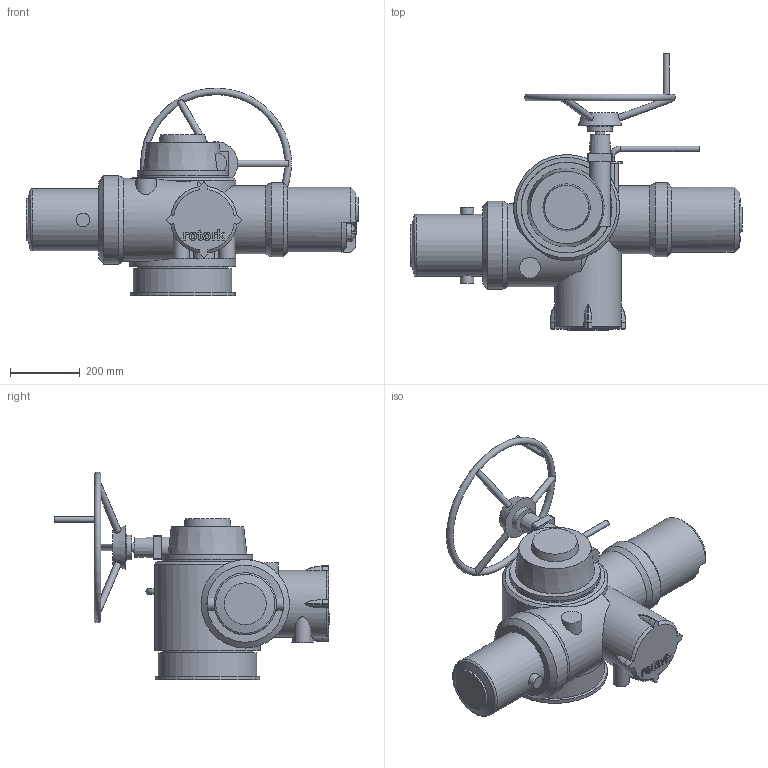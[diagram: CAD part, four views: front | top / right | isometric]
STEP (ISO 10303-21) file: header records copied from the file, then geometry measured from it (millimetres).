
FILE_DESCRIPTION( ( 'Unknown' ), '1' );
FILE_NAME( 'S:/System/Symlibrary/Actuators-Web/IQ/IQ40_SHW-1.stp', 'May 2003', ( 'Paul Exton' ), ( 'Rotork Controls Ltd' ), 'XStep 1.0', 'Solid Edge V12 (12.00.05.02)', ' ' );
FILE_SCHEMA( ( 'automotive_design' ) );
Length unit declared in the file: millimetre
Products named in the file (1): 1
Bounding box: 949.7 x 789.44 x 594.55 mm (x, y, z)
Volume: 57050611 mm3; surface area: 1402127.9 mm2
Topology: 1 solids, 1 shells, 293 faces, 729 edges, 477 vertices
Faces by surface type: plane 139, cylinder 82, extrusion 33, cone 21, torus 15, bspline 2, sphere 1
Full cylindrical faces by diameter (mm): 14 x8, 16 x2, 17.5 x1, 19.04 x3, 27 x1, 38 x2, 50.5 x2, 59 x1, 60 x1, 61 x2, 70 x1, 120 x1, 148 x1, 178 x1, 187 x1, 191 x1, 194 x1, 212 x1, 237 x1, 253 x1, 259 x1, 260 x2, 282 x1, 300 x1, 303 x1
Entity records: 10844 total; most frequent: CARTESIAN_POINT 4430, ORIENTED_EDGE 1288, DIRECTION 1203, EDGE_CURVE 644, VERTEX_POINT 452, AXIS2_PLACEMENT_3D 443, EDGE_LOOP 392, FACE_OUTER_BOUND 333
